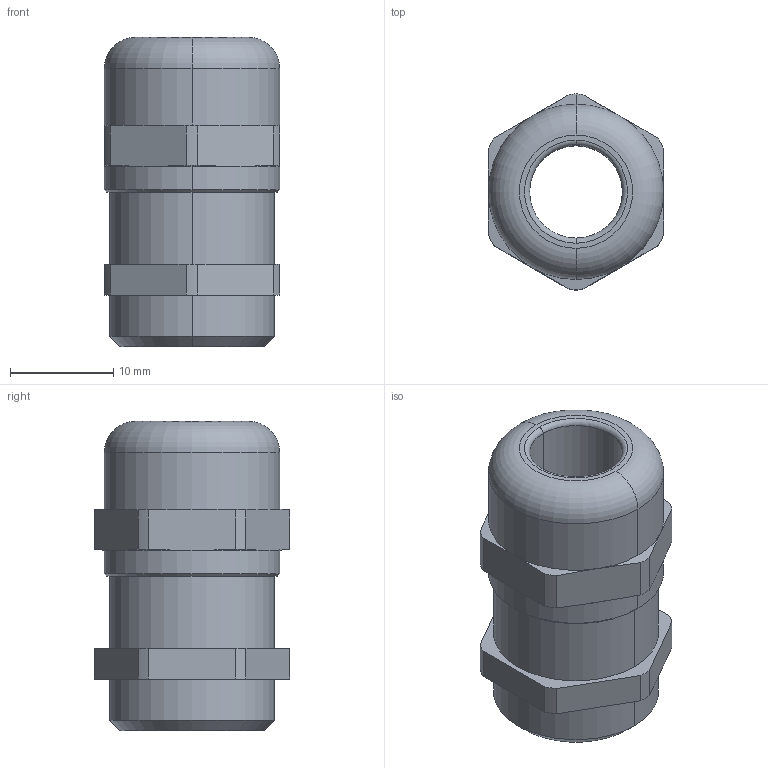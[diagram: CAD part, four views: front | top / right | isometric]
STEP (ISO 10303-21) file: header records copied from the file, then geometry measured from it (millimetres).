
FILE_DESCRIPTION (( 'STEP AP203' ), '1' );
FILE_NAME ('50.616 M.STEP', '2005-10-05T06:49:16', ( ' ' ), ( '' ), 'SwSTEP 2.0', 'SolidWorks 2005143', '' );
FILE_SCHEMA (( 'CONFIG_CONTROL_DESIGN' ));
Length unit declared in the file: millimetre
Products named in the file (1): 50.616 M
Bounding box: 17 x 19 x 30 mm (x, y, z)
Volume: 4621.9 mm3; surface area: 2794.5 mm2
Topology: 1 solids, 1 shells, 100 faces, 253 edges, 161 vertices
Faces by surface type: plane 54, cylinder 24, cone 18, torus 4
Entity records: 3091 total; most frequent: CARTESIAN_POINT 587, ORIENTED_EDGE 506, DIRECTION 504, EDGE_CURVE 253, AXIS2_PLACEMENT_3D 174, VERTEX_POINT 161, VECTOR 156, LINE 156
